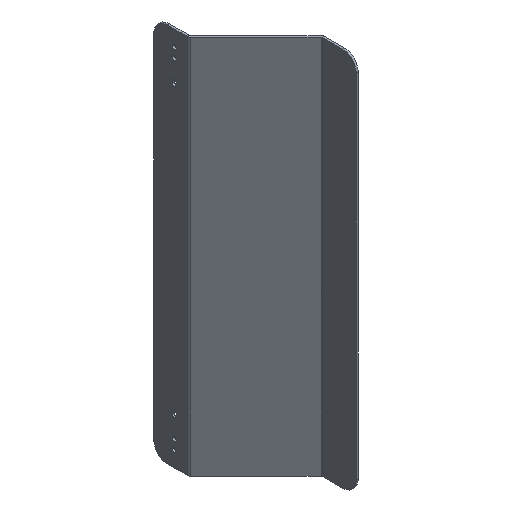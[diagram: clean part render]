
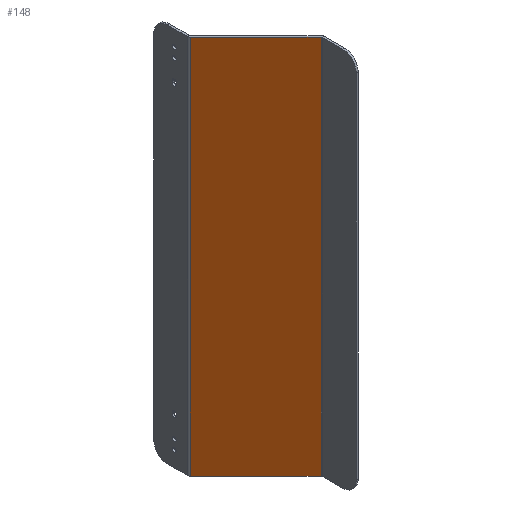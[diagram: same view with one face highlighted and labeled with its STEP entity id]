
A CAD part, isometric view. The second image highlights one B-rep face of the part: STEP entity #148.
In plain terms, the highlighted planar face has unit normal (-0.707, -0.707, 0).
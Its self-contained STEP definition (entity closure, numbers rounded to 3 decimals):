
#21 = DIRECTION ( 'NONE',  ( 0., 0., -1. ) ) ;
#33 = CARTESIAN_POINT ( 'NONE',  ( -1.061, -26.061, -140. ) ) ;
#106 = DIRECTION ( 'NONE',  ( -0.707, 0.707, 0. ) ) ;
#115 = CARTESIAN_POINT ( 'NONE',  ( -0.841, -26.28, 140. ) ) ;
#127 = CARTESIAN_POINT ( 'NONE',  ( -0.841, -26.28, 140. ) ) ;
#148 = ADVANCED_FACE ( 'NONE', ( #519 ), #868, .F. ) ;
#209 = CARTESIAN_POINT ( 'NONE',  ( -0.841, -26.28, -140. ) ) ;
#216 = CARTESIAN_POINT ( 'NONE',  ( 47.28, -74.402, 140. ) ) ;
#254 = EDGE_CURVE ( 'NONE', #1387, #961, #921, .T. ) ;
#276 = EDGE_CURVE ( 'NONE', #961, #585, #1243, .T. ) ;
#363 = VECTOR ( 'NONE', #21, 1000. ) ;
#477 = VECTOR ( 'NONE', #1211, 1000. ) ;
#491 = DIRECTION ( 'NONE',  ( 0.707, -0.707, 0. ) ) ;
#519 = FACE_OUTER_BOUND ( 'NONE', #788, .T. ) ;
#549 = CARTESIAN_POINT ( 'NONE',  ( 47.28, -74.402, -140. ) ) ;
#585 = VERTEX_POINT ( 'NONE', #549 ) ;
#737 = VECTOR ( 'NONE', #491, 1000. ) ;
#773 = LINE ( 'NONE', #1104, #477 ) ;
#788 = EDGE_LOOP ( 'NONE', ( #1395, #1053, #1064, #864 ) ) ;
#864 = ORIENTED_EDGE ( 'NONE', *, *, #254, .T. ) ;
#868 = PLANE ( 'NONE',  #1361 ) ;
#907 = DIRECTION ( 'NONE',  ( 0.707, -0.707, 0. ) ) ;
#921 = LINE ( 'NONE', #127, #363 ) ;
#941 = VERTEX_POINT ( 'NONE', #216 ) ;
#955 = EDGE_CURVE ( 'NONE', #941, #585, #773, .T. ) ;
#961 = VERTEX_POINT ( 'NONE', #209 ) ;
#1053 = ORIENTED_EDGE ( 'NONE', *, *, #955, .F. ) ;
#1064 = ORIENTED_EDGE ( 'NONE', *, *, #1180, .F. ) ;
#1104 = CARTESIAN_POINT ( 'NONE',  ( 47.28, -74.402, 140. ) ) ;
#1108 = DIRECTION ( 'NONE',  ( 0.707, 0.707, 0. ) ) ;
#1177 = VECTOR ( 'NONE', #907, 1000. ) ;
#1180 = EDGE_CURVE ( 'NONE', #1387, #941, #1294, .T. ) ;
#1211 = DIRECTION ( 'NONE',  ( 0., 0., -1. ) ) ;
#1243 = LINE ( 'NONE', #33, #1177 ) ;
#1294 = LINE ( 'NONE', #1386, #737 ) ;
#1361 = AXIS2_PLACEMENT_3D ( 'NONE', #1440, #1108, #106 ) ;
#1386 = CARTESIAN_POINT ( 'NONE',  ( -1.061, -26.061, 140. ) ) ;
#1387 = VERTEX_POINT ( 'NONE', #115 ) ;
#1395 = ORIENTED_EDGE ( 'NONE', *, *, #276, .T. ) ;
#1440 = CARTESIAN_POINT ( 'NONE',  ( -1.061, -26.061, 140. ) ) ;
